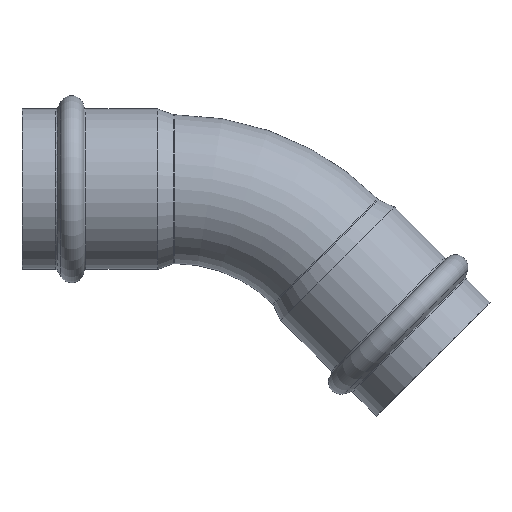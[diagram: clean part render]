
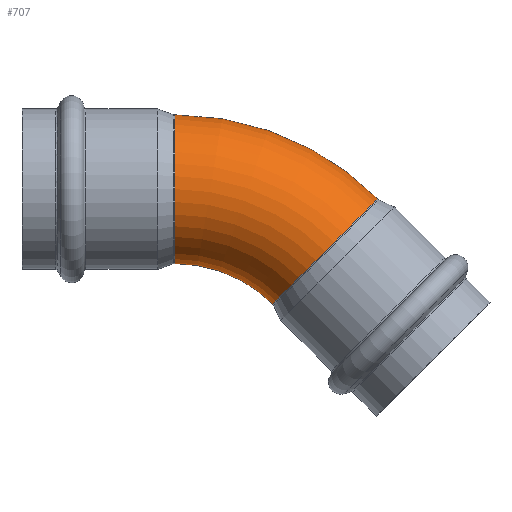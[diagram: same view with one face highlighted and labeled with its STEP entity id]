
A CAD part, top view. The second image highlights one B-rep face of the part: STEP entity #707.
In plain terms, the highlighted toroidal (fillet/blend) face has major radius 60 mm and minor radius 21 mm.
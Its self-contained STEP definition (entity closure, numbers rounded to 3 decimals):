
#680=CARTESIAN_POINT('',(0.,-60.0,0.));
#681=DIRECTION('',(0.,0.,-1.0));
#682=DIRECTION('',(-1.0,0.0,0.0));
#683=AXIS2_PLACEMENT_3D('',#680,#681,#682);
#684=TOROIDAL_SURFACE('',#683,60.0,21.0);
#685=CARTESIAN_POINT('',(57.276,-2.724,0.0));
#686=VERTEX_POINT('',#685);
#687=CARTESIAN_POINT('',(42.426,-17.574,0.0));
#688=DIRECTION('',(0.707,-0.707,0.0));
#689=DIRECTION('',(0.707,0.707,0.0));
#690=AXIS2_PLACEMENT_3D('',#687,#688,#689);
#691=CIRCLE('',#690,21.);
#692=EDGE_CURVE('',#686,#686,#691,.T.);
#693=ORIENTED_EDGE('',*,*,#692,.F.);
#694=EDGE_LOOP('',(#693));
#695=FACE_OUTER_BOUND('',#694,.T.);
#696=CARTESIAN_POINT('',(0.,21.0,0.0));
#697=VERTEX_POINT('',#696);
#698=CARTESIAN_POINT('',(0.,0.,0.0));
#699=DIRECTION('',(1.0,0.0,0.0));
#700=DIRECTION('',(0.0,1.0,0.0));
#701=AXIS2_PLACEMENT_3D('',#698,#699,#700);
#702=CIRCLE('',#701,21.0);
#703=EDGE_CURVE('',#697,#697,#702,.T.);
#704=ORIENTED_EDGE('',*,*,#703,.T.);
#705=EDGE_LOOP('',(#704));
#706=FACE_BOUND('',#705,.T.);
#707=ADVANCED_FACE('',(#695,#706),#684,.T.);
